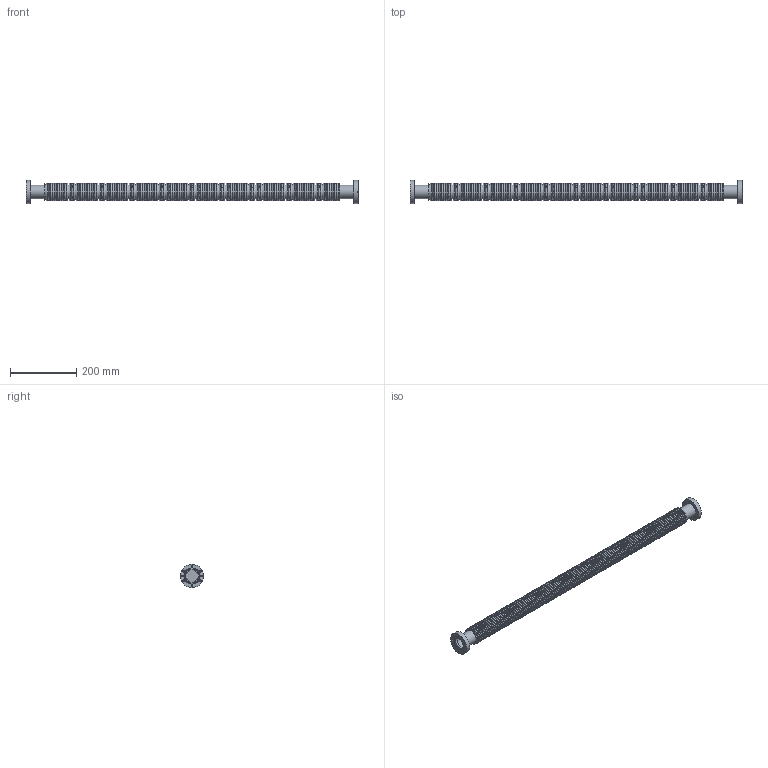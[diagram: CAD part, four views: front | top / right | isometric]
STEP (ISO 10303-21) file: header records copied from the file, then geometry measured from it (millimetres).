
FILE_DESCRIPTION( ( 'Unknown' ), '1' );
FILE_NAME( 'X:/Daten ( aktueller Bestand )/Projekte und Zeichnungen/Solid Edge/STP-Dateien/CF-Teile/7922R4.stp', 'Unknown', ( 'Unknown' ), ( 'Unknown' ), 'PSStep 14.0', 'Unknown', ' ' );
FILE_SCHEMA( ( 'AUTOMOTIVE_DESIGN { 1 0 10303 214 1 1 1 1 }' ) );
Length unit declared in the file: millimetre
Products named in the file (7): 7512R4; 7512R3-1; 7512R4-2; Assem1; 7902R-1; 7512F4; 7922R-2
Assembly tree (7 placements, depth 3):
  Assem1
    7902R-1  x2
    7512F4
    7922R-2
    7512R4
      7512R3-1
      7512R4-2
Bounding box: 1000 x 70 x 70 mm (x, y, z)
Volume: 1591602.7 mm3; surface area: 343901.9 mm2
Topology: 6 solids, 6 shells, 569 faces, 899 edges, 602 vertices
Faces by surface type: plane 276, torus 257, cylinder 32, cone 4
Full cylindrical faces by diameter (mm): 6 x6, 6.6 x6, 37 x4, 40 x2, 40.2 x2, 45.3 x1, 47.6 x2, 48 x1, 48.2 x1, 48.3 x1, 70 x2
Entity records: 16288 total; most frequent: DIRECTION 2296, CARTESIAN_POINT 1876, ORIENTED_EDGE 1176, AXIS2_PLACEMENT_3D 1144, EDGE_LOOP 1140, FACE_OUTER_BOUND 845, EDGE_CURVE 588, VERTEX_POINT 580
